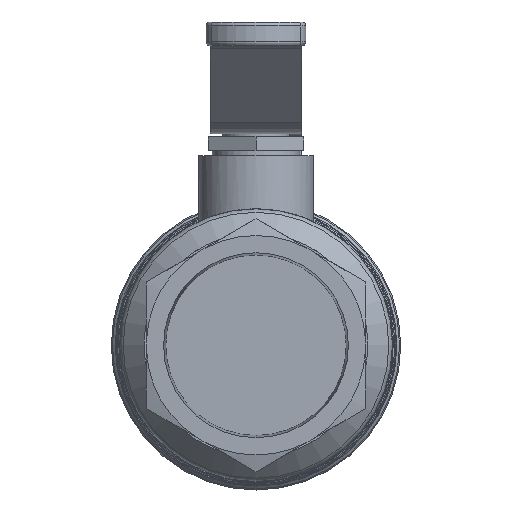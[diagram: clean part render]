
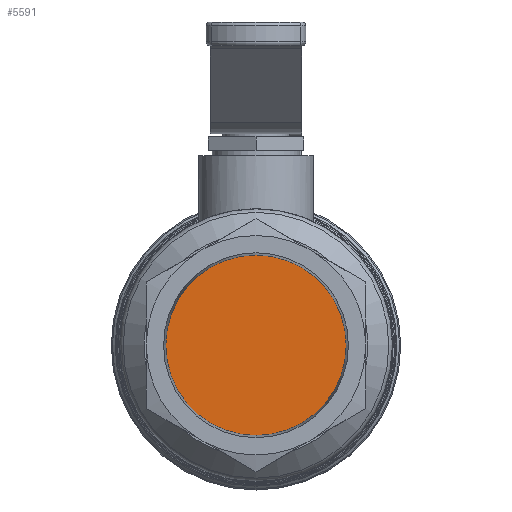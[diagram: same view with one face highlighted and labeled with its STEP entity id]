
A CAD part, left-side view. The second image highlights one B-rep face of the part: STEP entity #5591.
In plain terms, the highlighted free-form (B-spline) face has degree [1, 1] with [2, 2] control points.
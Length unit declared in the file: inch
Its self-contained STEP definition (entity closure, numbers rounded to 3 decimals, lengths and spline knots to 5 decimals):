
#5575=CARTESIAN_POINT('',(0.6809,0.88989,0.88989));
#5576=CARTESIAN_POINT('',(0.6809,-0.88989,0.88989));
#5577=CARTESIAN_POINT('',(0.6809,0.88989,-0.88989));
#5578=CARTESIAN_POINT('',(0.6809,-0.88989,-0.88989));
#5579=B_SPLINE_SURFACE_WITH_KNOTS('',1,1,((#5575,#5577),(#5576,#5578)),.UNSPECIFIED.,.F.,.F.,.U.,(2,2),(2,2),(0.0,1.77978),(0.0,1.77978),.UNSPECIFIED.);
#5580=CARTESIAN_POINT('',(0.6809,0.88989,0.0));
#5581=VERTEX_POINT('',#5580);
#5582=CARTESIAN_POINT('',(0.6809,0.0,0.0));
#5583=DIRECTION('',(1.0,0.0,0.0));
#5584=DIRECTION('',(0.0,1.0,0.0));
#5585=AXIS2_PLACEMENT_3D('',#5582,#5583,#5584);
#5586=CIRCLE('',#5585,0.88989);
#5587=EDGE_CURVE('',#5581,#5581,#5586,.T.);
#5588=ORIENTED_EDGE('',*,*,#5587,.F.);
#5589=EDGE_LOOP('',(#5588));
#5590=FACE_OUTER_BOUND('',#5589,.T.);
#5591=ADVANCED_FACE('',(#5590),#5579,.F.);
